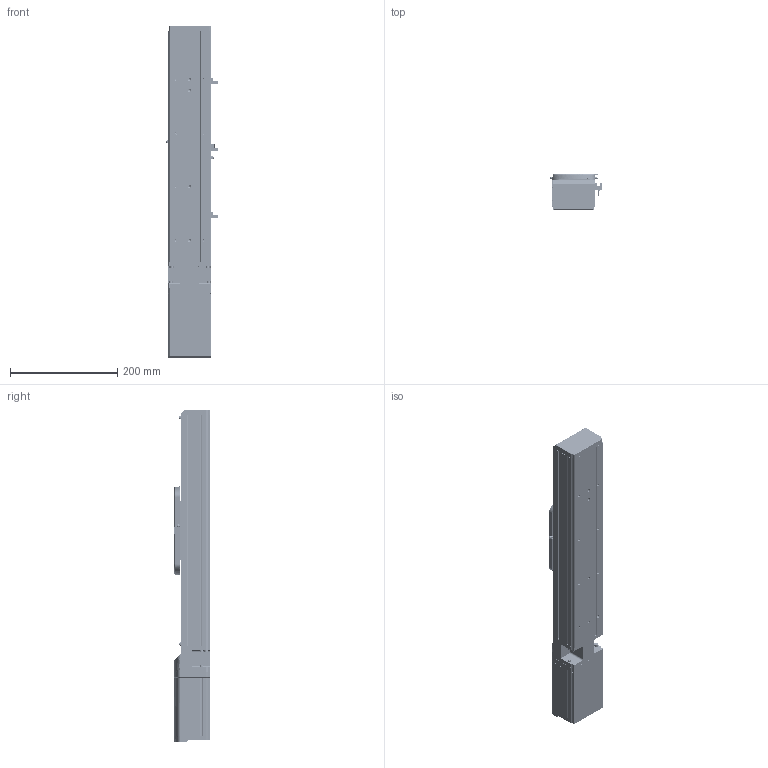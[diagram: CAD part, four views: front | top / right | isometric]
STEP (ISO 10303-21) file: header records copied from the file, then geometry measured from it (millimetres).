
FILE_DESCRIPTION (( 'STEP AP203' ), '1' );
FILE_NAME ('GERC80-250-ND-DL.STEP', '2020-04-27T08:01:26', ( '' ), ( '' ), 'SwSTEP 2.0', 'SolidWorks 2019', '' );
FILE_SCHEMA (( 'CONFIG_CONTROL_DESIGN' ));
Length unit declared in the file: millimetre
Products named in the file (3): Group1^GERC80-250-ND-DL_defeature_GMT; Group2^GERC80-250-ND-DL_defeature_GMT; GERC80-250-ND-DL
Assembly tree (2 placements, depth 2):
  GERC80-250-ND-DL
    Group1^GERC80-250-ND-DL_defeature_GMT
    Group2^GERC80-250-ND-DL_defeature_GMT
Bounding box: 98.4 x 67.5 x 619 mm (x, y, z)
Volume: 2101669.4 mm3; surface area: 500917.1 mm2
Topology: 40 solids, 40 shells, 4818 faces, 12766 edges, 8011 vertices
Faces by surface type: cylinder 1508, plane 1505, cone 1316, bspline 204, torus 199, sphere 86
Entity records: 175169 total; most frequent: CARTESIAN_POINT 54848, DIRECTION 26202, ORIENTED_EDGE 25218, EDGE_CURVE 12609, AXIS2_PLACEMENT_3D 10092, VERTEX_POINT 7941, LINE 6018, VECTOR 6018
